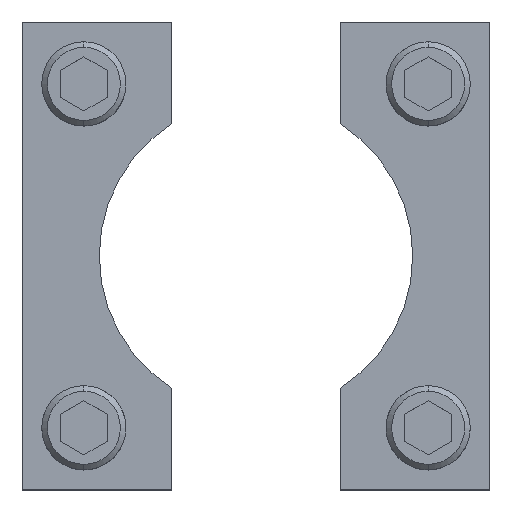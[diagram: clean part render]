
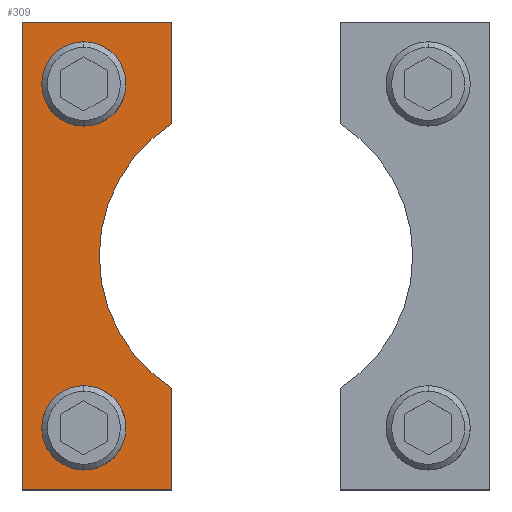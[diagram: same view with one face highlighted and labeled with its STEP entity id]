
A CAD part, top view. The second image highlights one B-rep face of the part: STEP entity #309.
In plain terms, the highlighted planar face has unit normal (0, 0, 1).
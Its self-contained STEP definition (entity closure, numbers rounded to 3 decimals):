
#175=FACE_BOUND('',#645,.T.);
#176=FACE_BOUND('',#646,.T.);
#177=FACE_BOUND('',#647,.T.);
#203=CIRCLE('',#2306,33.5);
#204=CIRCLE('',#2307,7.);
#205=CIRCLE('',#2308,7.);
#206=CIRCLE('',#2309,7.);
#207=CIRCLE('',#2310,7.);
#309=ADVANCED_FACE('',(#175,#176,#177),#445,.T.);
#445=PLANE('',#2311);
#645=EDGE_LOOP('',(#804,#805,#806,#807,#808,#809,#810,#811));
#646=EDGE_LOOP('',(#812,#813));
#647=EDGE_LOOP('',(#814,#815));
#804=ORIENTED_EDGE('',*,*,#1607,.T.);
#805=ORIENTED_EDGE('',*,*,#1608,.T.);
#806=ORIENTED_EDGE('',*,*,#1609,.T.);
#807=ORIENTED_EDGE('',*,*,#1600,.T.);
#808=ORIENTED_EDGE('',*,*,#1605,.T.);
#809=ORIENTED_EDGE('',*,*,#1610,.T.);
#810=ORIENTED_EDGE('',*,*,#1611,.T.);
#811=ORIENTED_EDGE('',*,*,#1612,.T.);
#812=ORIENTED_EDGE('',*,*,#1613,.T.);
#813=ORIENTED_EDGE('',*,*,#1614,.T.);
#814=ORIENTED_EDGE('',*,*,#1615,.T.);
#815=ORIENTED_EDGE('',*,*,#1616,.T.);
#1404=VERTEX_POINT('',#3229);
#1405=VERTEX_POINT('',#3231);
#1409=VERTEX_POINT('',#3240);
#1410=VERTEX_POINT('',#3245);
#1411=VERTEX_POINT('',#3246);
#1412=VERTEX_POINT('',#3248);
#1413=VERTEX_POINT('',#3251);
#1414=VERTEX_POINT('',#3253);
#1415=VERTEX_POINT('',#3256);
#1416=VERTEX_POINT('',#3257);
#1417=VERTEX_POINT('',#3260);
#1418=VERTEX_POINT('',#3261);
#1600=EDGE_CURVE('',#1405,#1404,#1904,.T.);
#1605=EDGE_CURVE('',#1404,#1409,#1909,.T.);
#1607=EDGE_CURVE('',#1410,#1411,#1911,.T.);
#1608=EDGE_CURVE('',#1411,#1412,#203,.T.);
#1609=EDGE_CURVE('',#1412,#1405,#1912,.T.);
#1610=EDGE_CURVE('',#1409,#1413,#1913,.T.);
#1611=EDGE_CURVE('',#1413,#1414,#1914,.T.);
#1612=EDGE_CURVE('',#1414,#1410,#1915,.T.);
#1613=EDGE_CURVE('',#1415,#1416,#204,.T.);
#1614=EDGE_CURVE('',#1416,#1415,#205,.T.);
#1615=EDGE_CURVE('',#1417,#1418,#206,.T.);
#1616=EDGE_CURVE('',#1418,#1417,#207,.T.);
#1904=LINE('',#3230,#2104);
#1909=LINE('',#3241,#2109);
#1911=LINE('',#3244,#2111);
#1912=LINE('',#3249,#2112);
#1913=LINE('',#3250,#2113);
#1914=LINE('',#3252,#2114);
#1915=LINE('',#3254,#2115);
#2104=VECTOR('',#2547,1.);
#2109=VECTOR('',#2554,1.);
#2111=VECTOR('',#2558,1.);
#2112=VECTOR('',#2561,1.);
#2113=VECTOR('',#2562,1.);
#2114=VECTOR('',#2563,1.);
#2115=VECTOR('',#2564,1.);
#2306=AXIS2_PLACEMENT_3D('',#3247,#2559,#2560);
#2307=AXIS2_PLACEMENT_3D('',#3255,#2565,#2566);
#2308=AXIS2_PLACEMENT_3D('',#3258,#2567,#2568);
#2309=AXIS2_PLACEMENT_3D('',#3259,#2569,#2570);
#2310=AXIS2_PLACEMENT_3D('',#3262,#2571,#2572);
#2311=AXIS2_PLACEMENT_3D('',#3263,#2573,#2574);
#2547=DIRECTION('',(0.,1.,0.));
#2554=DIRECTION('',(-1.,0.,0.));
#2558=DIRECTION('',(0.,1.,0.));
#2559=DIRECTION('',(0.,0.,-1.));
#2560=DIRECTION('',(1.,0.,0.));
#2561=DIRECTION('',(0.,1.,0.));
#2562=DIRECTION('',(0.,-1.,0.));
#2563=DIRECTION('',(1.,0.,0.));
#2564=DIRECTION('',(0.,1.,0.));
#2565=DIRECTION('',(0.,0.,-1.));
#2566=DIRECTION('',(-1.,0.,0.));
#2567=DIRECTION('',(0.,0.,-1.));
#2568=DIRECTION('',(1.,0.,0.));
#2569=DIRECTION('',(0.,0.,-1.));
#2570=DIRECTION('',(-1.,0.,0.));
#2571=DIRECTION('',(0.,0.,-1.));
#2572=DIRECTION('',(1.,0.,0.));
#2573=DIRECTION('',(0.,0.,1.));
#2574=DIRECTION('',(0.,1.,0.));
#3229=CARTESIAN_POINT('',(-18.,50.,12.));
#3230=CARTESIAN_POINT('',(-18.,50.,12.));
#3231=CARTESIAN_POINT('',(-18.,32.898,12.));
#3240=CARTESIAN_POINT('',(-50.,50.,12.));
#3241=CARTESIAN_POINT('',(-18.,50.,12.));
#3244=CARTESIAN_POINT('',(-18.,-28.253,12.));
#3245=CARTESIAN_POINT('',(-18.,-32.898,12.));
#3246=CARTESIAN_POINT('',(-18.,-28.253,12.));
#3247=CARTESIAN_POINT('',(0.,0.,12.));
#3248=CARTESIAN_POINT('',(-18.,28.253,12.));
#3249=CARTESIAN_POINT('',(-18.,32.898,12.));
#3250=CARTESIAN_POINT('',(-50.,50.,12.));
#3251=CARTESIAN_POINT('',(-50.,-50.,12.));
#3252=CARTESIAN_POINT('',(-18.,-50.,12.));
#3253=CARTESIAN_POINT('',(-18.,-50.,12.));
#3254=CARTESIAN_POINT('',(-18.,-32.898,12.));
#3255=CARTESIAN_POINT('',(-36.789,-36.75,12.));
#3256=CARTESIAN_POINT('',(-36.789,-29.75,12.));
#3257=CARTESIAN_POINT('',(-36.789,-43.75,12.));
#3258=CARTESIAN_POINT('',(-36.789,-36.75,12.));
#3259=CARTESIAN_POINT('',(-36.789,36.75,12.));
#3260=CARTESIAN_POINT('',(-36.789,43.75,12.));
#3261=CARTESIAN_POINT('',(-36.789,29.75,12.));
#3262=CARTESIAN_POINT('',(-36.789,36.75,12.));
#3263=CARTESIAN_POINT('',(-18.,-32.898,12.));
